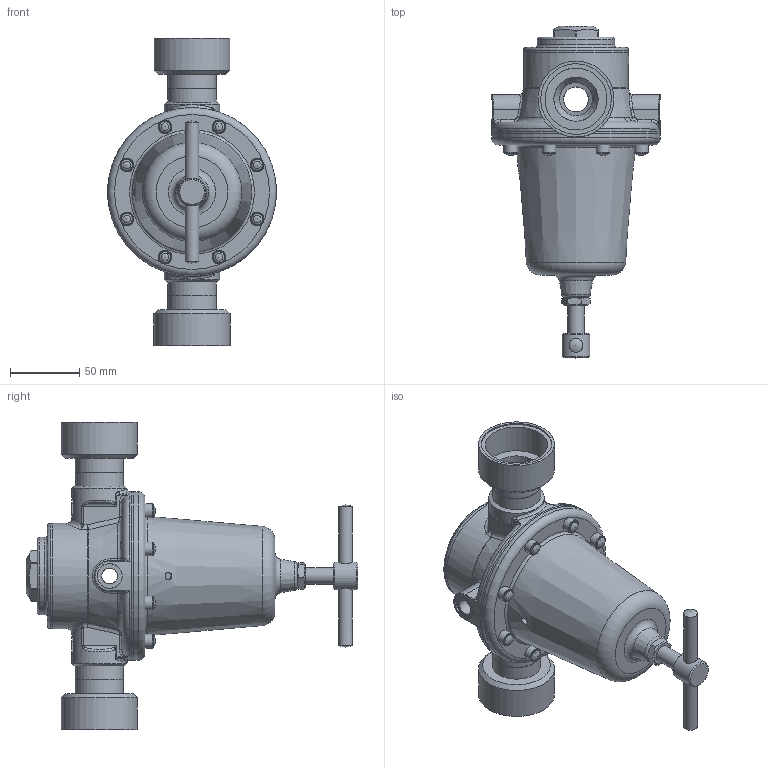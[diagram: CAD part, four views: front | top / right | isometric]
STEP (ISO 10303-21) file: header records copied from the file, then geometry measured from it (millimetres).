
FILE_DESCRIPTION(/* description */ (''),/* implementation_level */ '2;1');
FILE_NAME(/* name */ 'U:/AirCom-Produktdokumentation/Druckregler/REA/Zeichnungen/CAD-Aircom/3D/B-REA-12x.step',/* time_stamp */ '2022-06-03T09:27:40+02:00',/* author */ (''),/* organization */ (''),/* preprocessor_version */ 'ST-DEVELOPER v19',/* originating_system */ 'Autodesk Translation Framework v11.7.0.108',/* authorisation */ '');
FILE_SCHEMA (('AUTOMOTIVE_DESIGN { 1 0 10303 214 3 1 1 }'));
Length unit declared in the file: millimetre
Products named in the file (10): DM3405271-01; GAZ0032.26.0014; DER0760.08.0024; MED1225.01.0015; GGZ0015.23.0034; local.DIN.132.110.8; DIN6304-M12-080; MUV0040.09.0097; ISO 4762 - M6 X 16ISO; ADK-06-GRAU
Assembly tree (24 placements, depth 2):
  DM3405271-01
    GAZ0032.26.0014
    DER0760.08.0024
    MED1225.01.0015
    GGZ0015.23.0034
    local.DIN.132.110.8
    DIN6304-M12-080
    MUV0040.09.0097  x2
    ISO 4762 - M6 X 16ISO  x8
    ADK-06-GRAU  x8
Bounding box: 122 x 240 x 222 mm (x, y, z)
Volume: 527557.4 mm3; surface area: 201547.7 mm2
Topology: 24 solids, 24 shells, 510 faces, 1189 edges, 745 vertices
Faces by surface type: plane 179, cylinder 162, bspline 74, cone 45, torus 39, sphere 11
Full cylindrical faces by diameter (mm): 3.5 x8, 4.917 x8, 5 x9, 5.2 x8, 6 x8, 6.6 x16, 8 x9, 10 x10, 10.106 x2, 11.445 x2, 12 x1, 15 x1, 16 x2, 18 x3, 20 x2, 24 x2, 32 x4, 35 x4, 40 x2, 44.845 x2, 51 x2, 53 x1, 55 x2, 56 x1, 65 x1, 66 x1, 66.5 x1, 68 x1, 76 x2, 122 x3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
Entity records: 15597 total; most frequent: CARTESIAN_POINT 7501, ORIENTED_EDGE 1612, DIRECTION 1570, EDGE_CURVE 806, AXIS2_PLACEMENT_3D 668, VERTEX_POINT 510, EDGE_LOOP 438, CIRCLE 343
